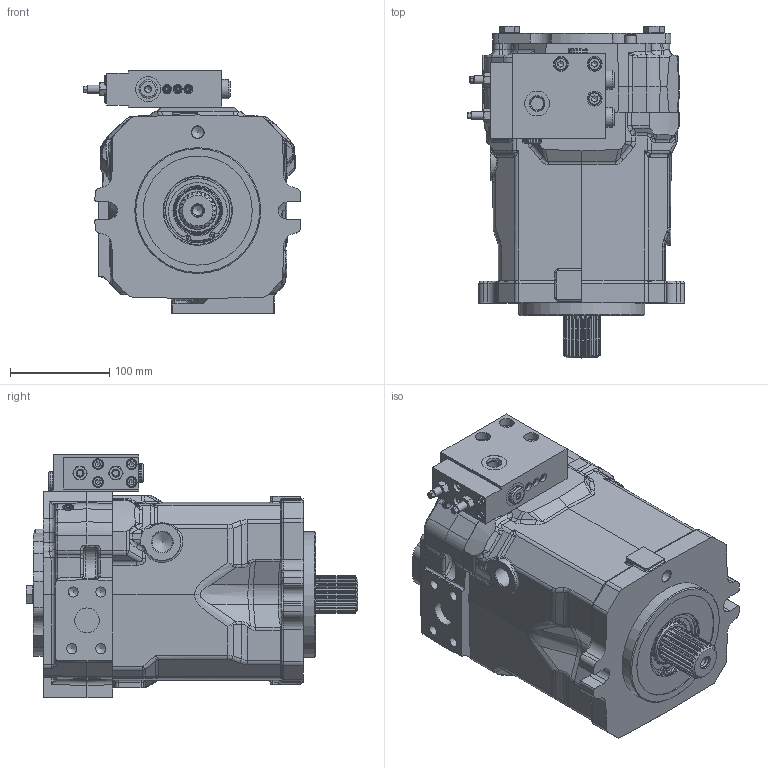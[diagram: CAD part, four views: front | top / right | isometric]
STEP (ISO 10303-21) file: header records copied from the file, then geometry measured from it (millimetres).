
FILE_DESCRIPTION(/* description */ (''),/* implementation_level */ '2;1');
FILE_NAME(/* name */ '2548055026m355.stp',/* time_stamp */ '2012-03-30T14:12:31+02:00',/* author */ (''),/* organization */ (''),/* preprocessor_version */ 'ST-DEVELOPER v11',/* originating_system */ 'SIEMENS PLM Software NX 7.5',/* authorisation */ '');
FILE_SCHEMA (('AUTOMOTIVE_DESIGN { 1 0 10303 214 1 1 1 1 }'));
Products named in the file (1): 2548055026m355
Bounding box: 219.01 x 334.9 x 245.5 mm (x, y, z)
Volume: 8954298 mm3; surface area: 596025.8 mm2
Topology: 7 solids, 13 shells, 2409 faces, 5755 edges, 3468 vertices
Faces by surface type: plane 891, cylinder 630, bspline 356, cone 354, extrusion 92, torus 64, sphere 22
Full cylindrical faces by diameter (mm): 2 x2, 2.9 x2, 3 x4, 3.3 x1, 3.8 x4, 4 x5, 5 x12, 5.2 x3, 6 x3, 6.8 x4, 7 x6, 8 x5, 8.5 x4, 9 x6, 9.2 x3, 10 x16, 10.2 x11, 10.579 x11, 10.7 x2, 11 x5, 11.7 x2, 11.85 x1, 12 x12, 12.5 x3, 12.8 x2, 13 x9, 13.5 x9, 14 x2, 15 x3, 15.5 x1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
Entity records: 76802 total; most frequent: CARTESIAN_POINT 27330, ORIENTED_EDGE 10156, DIRECTION 9461, EDGE_CURVE 5078, AXIS2_PLACEMENT_3D 3805, VERTEX_POINT 3306, EDGE_LOOP 2997, ADVANCED_FACE 2407
